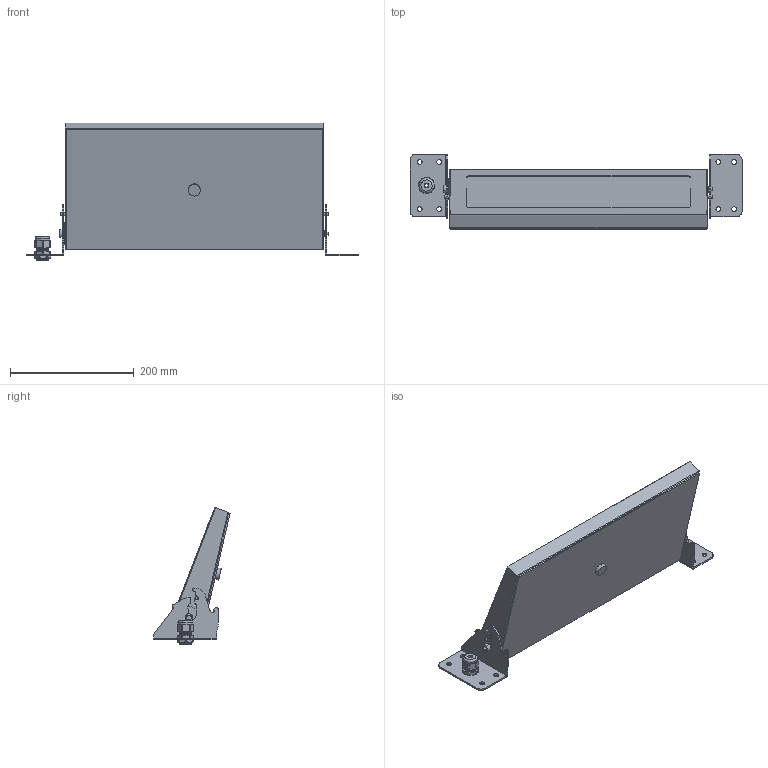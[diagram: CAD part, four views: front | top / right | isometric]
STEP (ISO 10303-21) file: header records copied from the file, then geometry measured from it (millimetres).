
FILE_DESCRIPTION (( 'STEP AP214' ), '1' );
FILE_NAME ('KB-xx-WMT-( ) Wallmount Keyboard in Low Typing Position.STEP', '2017-07-10T20:40:00', ( '' ), ( '' ), 'SwSTEP 2.0', 'SolidWorks 2017', '' );
FILE_SCHEMA (( 'AUTOMOTIVE_DESIGN' ));
Length unit declared in the file: inch
Products named in the file (5): Bracket, 10755; Keyboard Enclosure, KB-xx-WMT; KB-xx-WMT-( ) Wallmount Keyboard in Low Typing Position; Fitting, 30411 ; Bracket, 10756
Assembly tree (4 placements, depth 2):
  KB-xx-WMT-( ) Wallmount Keyboard in Low Typing Position
    Keyboard Enclosure, KB-xx-WMT
    Bracket, 10755
    Bracket, 10756
    Fitting, 30411 
Bounding box: 536.19 x 122.85 x 221.6 mm (x, y, z)
Volume: 3414489.2 mm3; surface area: 272976.6 mm2
Topology: 4 solids, 5 shells, 304 faces, 786 edges, 500 vertices
Faces by surface type: cylinder 164, plane 113, cone 14, sphere 5, torus 4, bspline 4
Entity records: 12724 total; most frequent: CARTESIAN_POINT 4797, DIRECTION 1598, ORIENTED_EDGE 1560, EDGE_CURVE 780, AXIS2_PLACEMENT_3D 604, VERTEX_POINT 498, VECTOR 390, LINE 390
